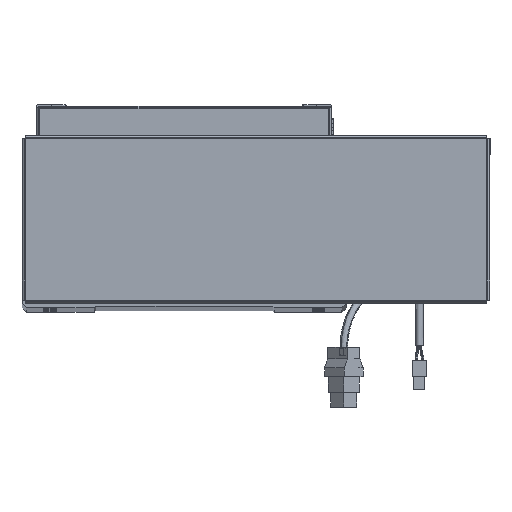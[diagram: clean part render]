
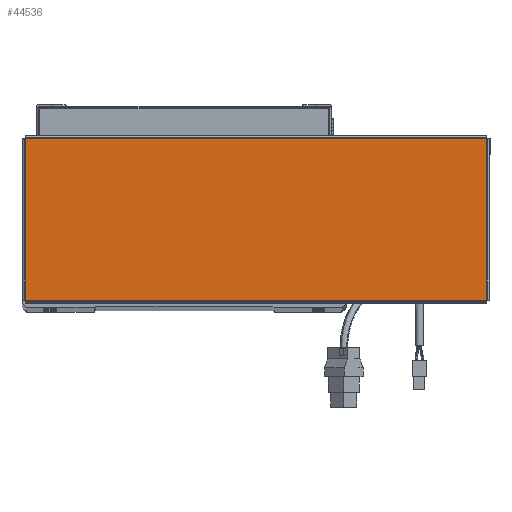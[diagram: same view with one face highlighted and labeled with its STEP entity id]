
A CAD part, top view. The second image highlights one B-rep face of the part: STEP entity #44536.
In plain terms, the highlighted planar face has unit normal (0, 0, 1).
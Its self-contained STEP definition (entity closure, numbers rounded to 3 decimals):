
#1509 = CARTESIAN_POINT ( 'NONE',  ( 156.513, -54.763, 0. ) ) ;
#5729 = LINE ( 'NONE', #36095, #47466 ) ;
#10899 = LINE ( 'NONE', #41054, #26809 ) ;
#11620 = ORIENTED_EDGE ( 'NONE', *, *, #38525, .T. ) ;
#13151 = DIRECTION ( 'NONE',  ( 0., 0., 1. ) ) ;
#14710 = DIRECTION ( 'NONE',  ( 1., 0., 0. ) ) ;
#15679 = EDGE_CURVE ( 'NONE', #59090, #39224, #17129, .T. ) ;
#17129 = LINE ( 'NONE', #50279, #39656 ) ;
#24231 = ORIENTED_EDGE ( 'NONE', *, *, #50411, .T. ) ;
#25017 = CARTESIAN_POINT ( 'NONE',  ( -156.543, -54.763, 0. ) ) ;
#26809 = VECTOR ( 'NONE', #57633, 1000. ) ;
#27300 = EDGE_LOOP ( 'NONE', ( #47833, #24231, #38397, #11620 ) ) ;
#28685 = CARTESIAN_POINT ( 'NONE',  ( -156.513, 54.763, 0. ) ) ;
#29074 = PLANE ( 'NONE',  #55056 ) ;
#30040 = DIRECTION ( 'NONE',  ( 0., -1., 0. ) ) ;
#33845 = VERTEX_POINT ( 'NONE', #1509 ) ;
#34874 = DIRECTION ( 'NONE',  ( 1., 0., 0. ) ) ;
#36095 = CARTESIAN_POINT ( 'NONE',  ( -156.513, 54.793, 0. ) ) ;
#38397 = ORIENTED_EDGE ( 'NONE', *, *, #15679, .T. ) ;
#38525 = EDGE_CURVE ( 'NONE', #39224, #40146, #5729, .T. ) ;
#38528 = VECTOR ( 'NONE', #14710, 1000. ) ;
#39224 = VERTEX_POINT ( 'NONE', #28685 ) ;
#39656 = VECTOR ( 'NONE', #66342, 1000. ) ;
#40146 = VERTEX_POINT ( 'NONE', #60006 ) ;
#41054 = CARTESIAN_POINT ( 'NONE',  ( 156.513, -54.793, 0. ) ) ;
#44536 = ADVANCED_FACE ( 'NONE', ( #66101 ), #29074, .T. ) ;
#47466 = VECTOR ( 'NONE', #30040, 1000. ) ;
#47719 = CARTESIAN_POINT ( 'NONE',  ( 156.513, 54.763, 0. ) ) ;
#47833 = ORIENTED_EDGE ( 'NONE', *, *, #67989, .T. ) ;
#50047 = CARTESIAN_POINT ( 'NONE',  ( 0., 0., 0. ) ) ;
#50279 = CARTESIAN_POINT ( 'NONE',  ( 156.543, 54.763, 0. ) ) ;
#50411 = EDGE_CURVE ( 'NONE', #33845, #59090, #10899, .T. ) ;
#55056 = AXIS2_PLACEMENT_3D ( 'NONE', #50047, #13151, #34874 ) ;
#57633 = DIRECTION ( 'NONE',  ( 0., 1., 0. ) ) ;
#58568 = LINE ( 'NONE', #25017, #38528 ) ;
#59090 = VERTEX_POINT ( 'NONE', #47719 ) ;
#60006 = CARTESIAN_POINT ( 'NONE',  ( -156.513, -54.763, 0. ) ) ;
#66101 = FACE_OUTER_BOUND ( 'NONE', #27300, .T. ) ;
#66342 = DIRECTION ( 'NONE',  ( -1., 0., 0. ) ) ;
#67989 = EDGE_CURVE ( 'NONE', #40146, #33845, #58568, .T. ) ;
